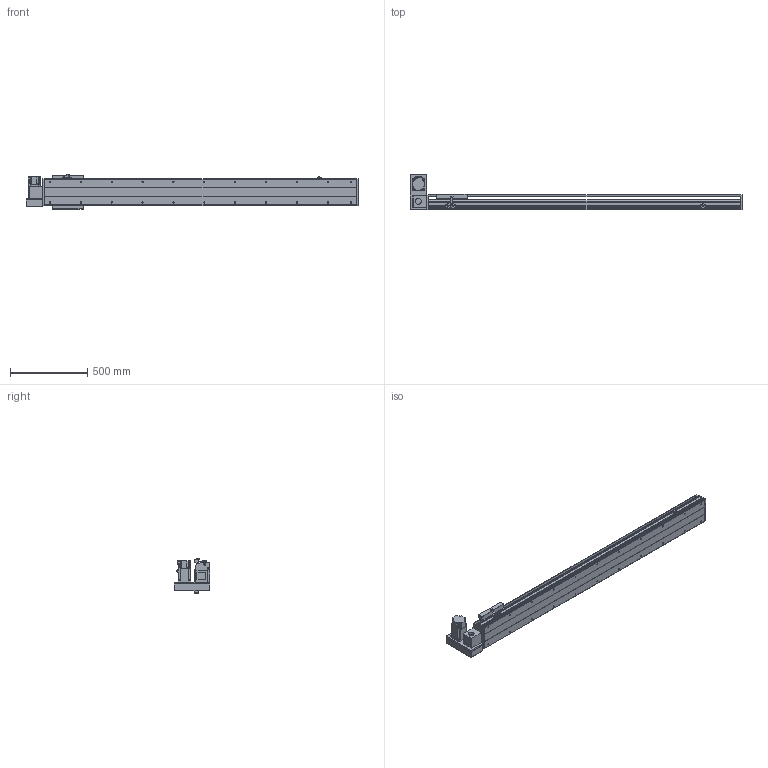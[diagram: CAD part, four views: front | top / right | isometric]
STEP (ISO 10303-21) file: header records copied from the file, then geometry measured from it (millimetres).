
FILE_DESCRIPTION(/* description */ ('STEP AP214'),/* implementation_level */ '2;1');
FILE_NAME(/* name */ 'PBS200-P40-S1650-LU-T75-C1-N(0)',/* time_stamp */ '2022-06-11T09:01:10+02:00',/* author */ ('License CC BY-ND 4.0'),/* organization */ ('CADENAS'),/* preprocessor_version */ 'ST-DEVELOPER v18.102',/* originating_system */ 'PARTsolutions',/* authorisation */ ' ');
FILE_SCHEMA (('TECHNICAL_DATA_PACKAGING','MODEL_BASED_INTEGRATED_MANUFACTURING_SCHEMA','AUTOMOTIVE_DESIGN {1 0 10303 214 3 1 1}'));
Length unit declared in the file: millimetre
Products named in the file (7): PBS200-P40-S1650-LU-T75-C1-N(0); PBS200_sensor; PBS200_plant; PBS200_sliser; T75-p1; PBS200T-LU_motors; PBS200-S1650()_body
Assembly tree (8 placements, depth 2):
  PBS200-P40-S1650-LU-T75-C1-N(0)
    PBS200_sensor  x3
    PBS200_plant
    PBS200_sliser
    T75-p1
    PBS200T-LU_motors
    PBS200-S1650()_body
Bounding box: 2150 x 231 x 221 mm (x, y, z)
Volume: 15296282.8 mm3; surface area: 2459424.6 mm2
Topology: 8 solids, 8 shells, 938 faces, 2404 edges, 1566 vertices
Faces by surface type: plane 580, cylinder 304, cone 54
Full cylindrical faces by diameter (mm): 2.459 x6, 3.242 x4, 4.5 x6, 4.917 x4, 5 x6, 6 x7, 6.6 x8, 6.647 x26, 8 x6, 10 x4, 12 x8, 38 x2, 40 x1, 70 x1
Entity records: 24941 total; most frequent: DIRECTION 4399, CARTESIAN_POINT 4246, ORIENTED_EDGE 4018, EDGE_CURVE 2009, AXIS2_PLACEMENT_3D 1543, VERTEX_POINT 1390, LINE 1313, VECTOR 1313
